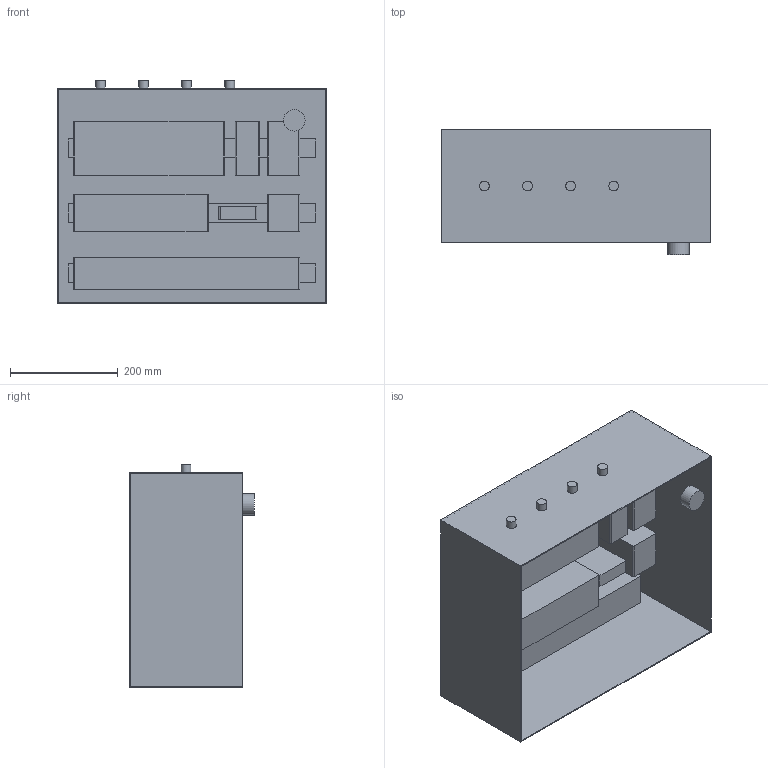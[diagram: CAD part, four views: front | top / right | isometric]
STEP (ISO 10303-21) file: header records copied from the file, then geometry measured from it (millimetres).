
FILE_DESCRIPTION(('Open CASCADE Model'),'2;1');
FILE_NAME('Open CASCADE Shape Model','2026-10-17T21:01:29',('Author'),( 'Open CASCADE'),'Open CASCADE STEP processor 7.9','Open CASCADE 7.9' ,'Unknown');
FILE_SCHEMA(('AUTOMOTIVE_DESIGN { 1 0 10303 214 1 1 1 1 }'));
Length unit declared in the file: millimetre
Products named in the file (17): CONTROLLER; cabinet_steel_enclosure; din_rail_0; din_rail_1; din_rail_2; psu_RSP-1500-48; safety_relay_PNOZ_s3; contactor_48V; ethercat_pc_fanless; odrive_S1_spindle_driver; io_module_estop_chain; breaker_and_terminals; cable_gland_0; cable_gland_1; cable_gland_2; cable_gland_3; estop_button
Assembly tree (16 placements, depth 2):
  CONTROLLER
    cabinet_steel_enclosure
    din_rail_0
    din_rail_1
    din_rail_2
    psu_RSP-1500-48
    safety_relay_PNOZ_s3
    contactor_48V
    ethercat_pc_fanless
    odrive_S1_spindle_driver
    io_module_estop_chain
    breaker_and_terminals
    cable_gland_0
    cable_gland_1
    cable_gland_2
    cable_gland_3
    estop_button
Bounding box: 500 x 232 x 414 mm (x, y, z)
Volume: 9350130.8 mm3; surface area: 1760074.9 mm2
Topology: 16 solids, 16 shells, 118 faces, 255 edges, 170 vertices
Faces by surface type: plane 81, cylinder 37
Full cylindrical faces by diameter (mm): 18 x4, 18.4 x4, 40 x1
Entity records: 7023 total; most frequent: CARTESIAN_POINT 1246, DIRECTION 1073, LINE 609, VECTOR 609, ORIENTED_EDGE 510, PCURVE 510, DEFINITIONAL_REPRESENTATION 510, EDGE_CURVE 255
